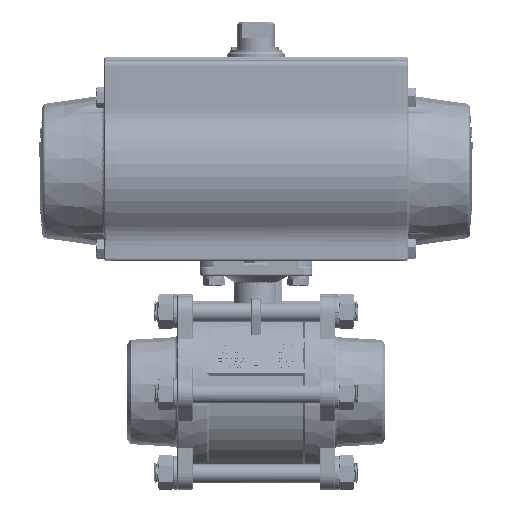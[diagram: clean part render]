
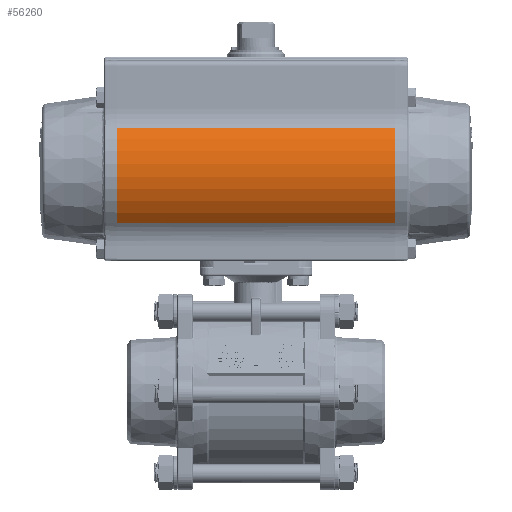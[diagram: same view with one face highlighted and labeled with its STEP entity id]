
A CAD part, top view. The second image highlights one B-rep face of the part: STEP entity #56260.
In plain terms, the highlighted cylindrical face has radius 68 mm (diameter 136 mm), a partial arc.
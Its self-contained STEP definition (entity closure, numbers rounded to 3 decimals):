
#49280=CARTESIAN_POINT('',(-223.665,-0.915,10.828));
#49281=VERTEX_POINT('',#49280);
#49289=CARTESIAN_POINT('',(-223.665,80.368,16.726));
#49290=VERTEX_POINT('',#49289);
#49291=CARTESIAN_POINT('',(-223.665,43.666,-40.519));
#49292=DIRECTION('',(-1.0,0.0,0.0));
#49293=DIRECTION('',(0.0,-1.0,0.0));
#49294=AXIS2_PLACEMENT_3D('',#49291,#49292,#49293);
#49295=CIRCLE('',#49294,68.0);
#49296=EDGE_CURVE('',#49281,#49290,#49295,.T.);
#56164=CARTESIAN_POINT('',(13.835,-0.915,10.828));
#56165=VERTEX_POINT('',#56164);
#56166=CARTESIAN_POINT('',(13.835,-0.915,10.828));
#56167=DIRECTION('',(-1.0,0.0,0.0));
#56168=VECTOR('',#56167,237.5);
#56169=LINE('',#56166,#56168);
#56170=EDGE_CURVE('',#56165,#49281,#56169,.T.);
#56225=CARTESIAN_POINT('',(13.835,80.368,16.726));
#56226=VERTEX_POINT('',#56225);
#56227=CARTESIAN_POINT('',(-223.665,80.368,16.726));
#56228=DIRECTION('',(1.0,0.0,0.0));
#56229=VECTOR('',#56228,237.5);
#56230=LINE('',#56227,#56229);
#56231=EDGE_CURVE('',#49290,#56226,#56230,.T.);
#56243=CARTESIAN_POINT('',(-223.665,43.666,-40.519));
#56244=DIRECTION('',(1.0,0.0,0.0));
#56245=DIRECTION('',(0.0,-1.0,0.0));
#56246=AXIS2_PLACEMENT_3D('',#56243,#56244,#56245);
#56247=CYLINDRICAL_SURFACE('',#56246,68.0);
#56248=CARTESIAN_POINT('',(13.835,43.666,-40.519));
#56249=DIRECTION('',(1.0,0.0,0.0));
#56250=DIRECTION('',(0.0,-1.0,0.0));
#56251=AXIS2_PLACEMENT_3D('',#56248,#56249,#56250);
#56252=CIRCLE('',#56251,68.0);
#56253=EDGE_CURVE('',#56226,#56165,#56252,.T.);
#56254=ORIENTED_EDGE('',*,*,#56253,.F.);
#56255=ORIENTED_EDGE('',*,*,#56231,.F.);
#56256=ORIENTED_EDGE('',*,*,#49296,.F.);
#56257=ORIENTED_EDGE('',*,*,#56170,.F.);
#56258=EDGE_LOOP('',(#56254,#56255,#56256,#56257));
#56259=FACE_OUTER_BOUND('',#56258,.T.);
#56260=ADVANCED_FACE('',(#56259),#56247,.T.);
